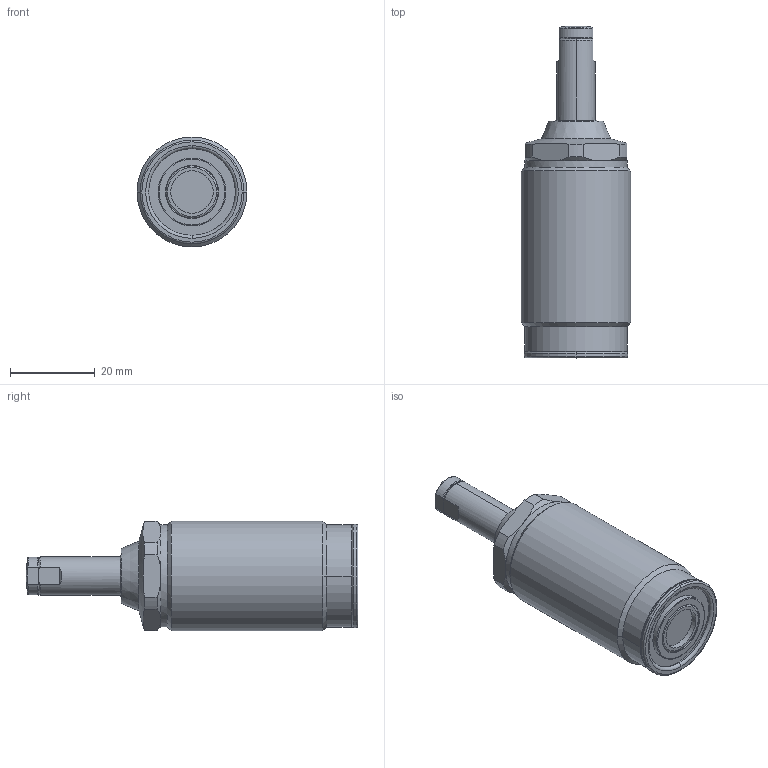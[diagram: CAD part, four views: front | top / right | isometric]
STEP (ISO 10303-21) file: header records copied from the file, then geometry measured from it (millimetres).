
FILE_DESCRIPTION(/* description */ (''),/* implementation_level */ '2;1');
FILE_NAME(/* name */ 'TNE26-Q.stp',/* time_stamp */ '2025-01-09T15:46:53+08:00',/* author */ (''),/* organization */ (''),/* preprocessor_version */ 'ST-DEVELOPER v16.7',/* originating_system */ 'SIEMENS PLM Software NX 12.0',/* authorisation */ '');
FILE_SCHEMA (('AUTOMOTIVE_DESIGN { 1 0 10303 214 3 1 1 1 }'));
Length unit declared in the file: millimetre
Products named in the file (6): TNE26-Q-1961; TNE26-Q-5; TNE26-Q-4; TNE26-Q-3; TNE26-Q-2; TNE26-Q_stp
Assembly tree (5 placements, depth 2):
  TNE26-Q_stp
    TNE26-Q-2
    TNE26-Q-3
    TNE26-Q-4
    TNE26-Q-5
    TNE26-Q-1961
Bounding box: 26 x 78.5 x 26 mm (x, y, z)
Volume: 27973 mm3; surface area: 7055.3 mm2
Topology: 5 solids, 5 shells, 134 faces, 291 edges, 174 vertices
Faces by surface type: cylinder 42, torus 37, plane 34, cone 19, sphere 2
Full cylindrical faces by diameter (mm): 24.2 x1, 26 x1
Entity records: 4004 total; most frequent: CARTESIAN_POINT 864, DIRECTION 712, ORIENTED_EDGE 572, AXIS2_PLACEMENT_3D 318, EDGE_CURVE 286, CIRCLE 178, VERTEX_POINT 174, EDGE_LOOP 152
